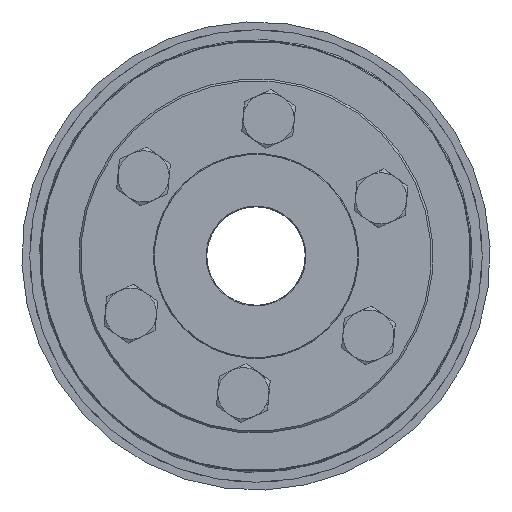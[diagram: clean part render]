
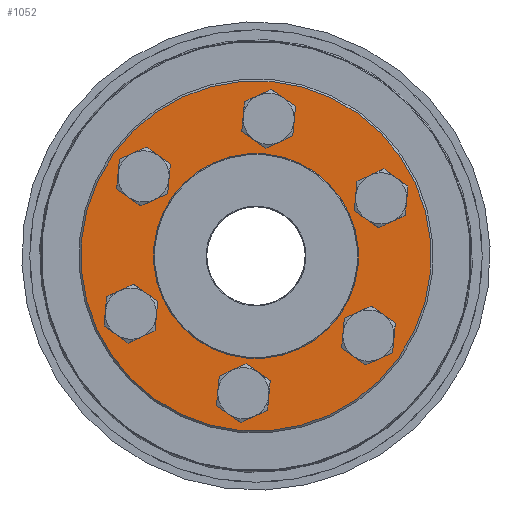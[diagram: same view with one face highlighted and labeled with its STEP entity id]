
A CAD part, left-side view. The second image highlights one B-rep face of the part: STEP entity #1052.
In plain terms, the highlighted planar face has unit normal (-1, 0, 0).
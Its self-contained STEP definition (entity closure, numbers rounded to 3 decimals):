
#1052 = ADVANCED_FACE( 'NONE', ( #2094, #2095, #2096, #2097, #2098, #2099, #2100, #2101 ), #2102, .F. );
#2094 = FACE_OUTER_BOUND( '', #3057, .T. );
#2095 = FACE_BOUND( '', #3058, .T. );
#2096 = FACE_BOUND( '', #3059, .T. );
#2097 = FACE_BOUND( '', #3060, .T. );
#2098 = FACE_BOUND( '', #3061, .T. );
#2099 = FACE_BOUND( '', #3062, .T. );
#2100 = FACE_BOUND( '', #3063, .T. );
#2101 = FACE_BOUND( '', #3064, .T. );
#2102 = PLANE( '', #3065 );
#3057 = EDGE_LOOP( '', ( #4510 ) );
#3058 = EDGE_LOOP( '', ( #4511 ) );
#3059 = EDGE_LOOP( '', ( #4512 ) );
#3060 = EDGE_LOOP( '', ( #4513 ) );
#3061 = EDGE_LOOP( '', ( #4514 ) );
#3062 = EDGE_LOOP( '', ( #4515 ) );
#3063 = EDGE_LOOP( '', ( #4516 ) );
#3064 = EDGE_LOOP( '', ( #4517 ) );
#3065 = AXIS2_PLACEMENT_3D( '', #4518, #4519, #4520 );
#4510 = ORIENTED_EDGE( '', *, *, #5122, .T. );
#4511 = ORIENTED_EDGE( '', *, *, #5082, .T. );
#4512 = ORIENTED_EDGE( '', *, *, #4773, .T. );
#4513 = ORIENTED_EDGE( '', *, *, #5037, .T. );
#4514 = ORIENTED_EDGE( '', *, *, #5123, .T. );
#4515 = ORIENTED_EDGE( '', *, *, #4755, .T. );
#4516 = ORIENTED_EDGE( '', *, *, #4728, .T. );
#4517 = ORIENTED_EDGE( '', *, *, #4944, .F. );
#4518 = CARTESIAN_POINT( '', ( 0., 26., 0. ) );
#4519 = DIRECTION( '', ( 1., 0., 0. ) );
#4520 = DIRECTION( '', ( 0., 1., 0. ) );
#4728 = EDGE_CURVE( 'NONE', #5341, #5341, #5342, .T. );
#4755 = EDGE_CURVE( 'NONE', #5385, #5385, #5386, .T. );
#4773 = EDGE_CURVE( 'NONE', #5413, #5413, #5414, .T. );
#4944 = EDGE_CURVE( 'NONE', #5673, #5673, #5674, .T. );
#5037 = EDGE_CURVE( 'NONE', #5795, #5795, #5796, .T. );
#5082 = EDGE_CURVE( 'NONE', #5847, #5847, #5848, .T. );
#5122 = EDGE_CURVE( 'NONE', #5897, #5897, #5898, .T. );
#5123 = EDGE_CURVE( 'NONE', #5899, #5899, #5900, .T. );
#5341 = VERTEX_POINT( '', #6182 );
#5342 = CIRCLE( '', #6183, 4.5 );
#5385 = VERTEX_POINT( '', #6226 );
#5386 = CIRCLE( '', #6227, 4.5 );
#5413 = VERTEX_POINT( '', #6254 );
#5414 = CIRCLE( '', #6255, 4.5 );
#5673 = VERTEX_POINT( '', #6865 );
#5674 = CIRCLE( '', #6866, 26. );
#5795 = VERTEX_POINT( '', #7056 );
#5796 = CIRCLE( '', #7057, 4.5 );
#5847 = VERTEX_POINT( '', #7125 );
#5848 = CIRCLE( '', #7126, 4.5 );
#5897 = VERTEX_POINT( '', #7179 );
#5898 = CIRCLE( '', #7180, 44.5 );
#5899 = VERTEX_POINT( '', #7181 );
#5900 = CIRCLE( '', #7182, 4.5 );
#6182 = CARTESIAN_POINT( '', ( 0., 35., -4.5 ) );
#6183 = AXIS2_PLACEMENT_3D( '', #7400, #7401, #7402 );
#6226 = CARTESIAN_POINT( '', ( 0., 17.5, -34.811 ) );
#6227 = AXIS2_PLACEMENT_3D( '', #7457, #7458, #7459 );
#6254 = CARTESIAN_POINT( '', ( 0., -17.5, 25.811 ) );
#6255 = AXIS2_PLACEMENT_3D( '', #7487, #7488, #7489 );
#6865 = CARTESIAN_POINT( '', ( 0., 0., 26. ) );
#6866 = AXIS2_PLACEMENT_3D( '', #7724, #7725, #7726 );
#7056 = CARTESIAN_POINT( '', ( 0., -35., -4.5 ) );
#7057 = AXIS2_PLACEMENT_3D( '', #7835, #7836, #7837 );
#7125 = CARTESIAN_POINT( '', ( 0., 17.5, 25.811 ) );
#7126 = AXIS2_PLACEMENT_3D( '', #7864, #7865, #7866 );
#7179 = CARTESIAN_POINT( '', ( 0., 0., -44.5 ) );
#7180 = AXIS2_PLACEMENT_3D( '', #7895, #7896, #7897 );
#7181 = CARTESIAN_POINT( '', ( 0., -17.5, -34.811 ) );
#7182 = AXIS2_PLACEMENT_3D( '', #7898, #7899, #7900 );
#7400 = CARTESIAN_POINT( '', ( 0., 35., 0. ) );
#7401 = DIRECTION( '', ( 1., 0., 0. ) );
#7402 = DIRECTION( '', ( 0., 0., -1. ) );
#7457 = CARTESIAN_POINT( '', ( 0., 17.5, -30.311 ) );
#7458 = DIRECTION( '', ( 1., 0., 0. ) );
#7459 = DIRECTION( '', ( 0., 0., -1. ) );
#7487 = CARTESIAN_POINT( '', ( 0., -17.5, 30.311 ) );
#7488 = DIRECTION( '', ( 1., 0., 0. ) );
#7489 = DIRECTION( '', ( 0., 0., -1. ) );
#7724 = CARTESIAN_POINT( '', ( 0., 0., 0. ) );
#7725 = DIRECTION( '', ( -1., 0., 0. ) );
#7726 = DIRECTION( '', ( 0., 0., 1. ) );
#7835 = CARTESIAN_POINT( '', ( 0., -35., 0. ) );
#7836 = DIRECTION( '', ( 1., 0., 0. ) );
#7837 = DIRECTION( '', ( 0., 0., -1. ) );
#7864 = CARTESIAN_POINT( '', ( 0., 17.5, 30.311 ) );
#7865 = DIRECTION( '', ( 1., 0., 0. ) );
#7866 = DIRECTION( '', ( 0., 0., -1. ) );
#7895 = CARTESIAN_POINT( '', ( 0., 0., 0. ) );
#7896 = DIRECTION( '', ( -1., 0., 0. ) );
#7897 = DIRECTION( '', ( 0., 0., -1. ) );
#7898 = CARTESIAN_POINT( '', ( 0., -17.5, -30.311 ) );
#7899 = DIRECTION( '', ( 1., 0., 0. ) );
#7900 = DIRECTION( '', ( 0., 0., -1. ) );
